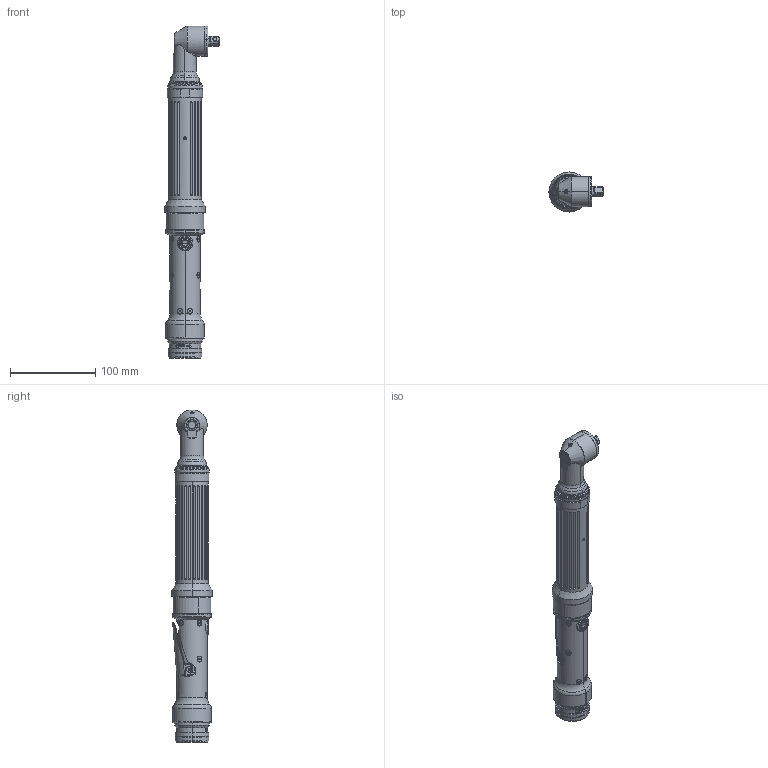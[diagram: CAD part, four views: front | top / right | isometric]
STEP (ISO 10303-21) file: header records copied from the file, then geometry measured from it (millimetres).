
FILE_DESCRIPTION (( 'STEP AP214' ), '1' );
FILE_NAME ('AEN32030C, AEN32040C.STEP', '2016-04-15T00:08:13', ( 'AIMCO' ), ( '' ), 'SwSTEP 2.0', 'SolidWorks 2016', '' );
FILE_SCHEMA (( 'AUTOMOTIVE_DESIGN' ));
Length unit declared in the file: inch
Products named in the file (1): AEN32030C, AEN32040C
Bounding box: 63.32 x 46.99 x 389.31 mm (x, y, z)
Surface area: 79141 mm2 (no closed solid volume)
Topology: 0 solids, 95 shells, 996 faces, 3498 edges, 2442 vertices
Faces by surface type: cylinder 232, plane 214, cone 176, bspline 172, torus 154, sphere 48
Entity records: 70239 total; most frequent: CARTESIAN_POINT 30447, ORIENTED_EDGE 5248, DIRECTION 5017, EDGE_CURVE 3416, VERTEX_POINT 2402, AXIS2_PLACEMENT_3D 2012, B_SPLINE_CURVE_WITH_KNOTS 1202, CIRCLE 1187
